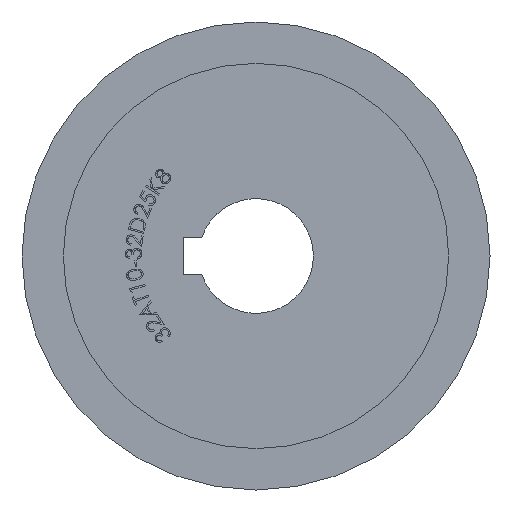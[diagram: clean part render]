
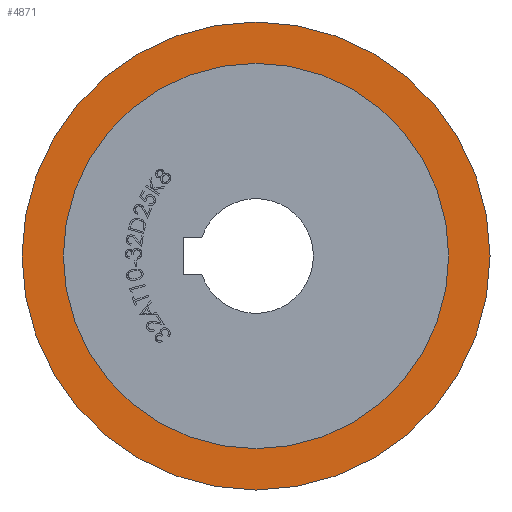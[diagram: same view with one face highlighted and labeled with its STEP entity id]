
A CAD part, left-side view. The second image highlights one B-rep face of the part: STEP entity #4871.
In plain terms, the highlighted planar face has unit normal (-1, 0, 0).
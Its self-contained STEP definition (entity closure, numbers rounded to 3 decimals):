
#50 = CARTESIAN_POINT ( 'NONE',  ( -20.2, 0., 51. ) ) ;
#310 = EDGE_LOOP ( 'NONE', ( #16038, #22500 ) ) ;
#360 = AXIS2_PLACEMENT_3D ( 'NONE', #6568, #6309, #6445 ) ;
#1471 = EDGE_CURVE ( 'NONE', #5954, #12241, #20647, .T. ) ;
#1590 = PLANE ( 'NONE',  #8426 ) ;
#2756 = CIRCLE ( 'NONE', #360, 51. ) ;
#3839 = EDGE_CURVE ( 'NONE', #8709, #14295, #2756, .T. ) ;
#3914 = DIRECTION ( 'NONE',  ( -1., 0., 0. ) ) ;
#4871 = ADVANCED_FACE ( 'NONE', ( #20275, #18423 ), #1590, .T. ) ;
#5954 = VERTEX_POINT ( 'NONE', #19003 ) ;
#6309 = DIRECTION ( 'NONE',  ( -1., 0., 0. ) ) ;
#6445 = DIRECTION ( 'NONE',  ( 0., 0., 1. ) ) ;
#6568 = CARTESIAN_POINT ( 'NONE',  ( -20.2, 0., 0. ) ) ;
#7092 = CARTESIAN_POINT ( 'NONE',  ( -20.2, 0., 0. ) ) ;
#7286 = DIRECTION ( 'NONE',  ( -1., 0., 0. ) ) ;
#8426 = AXIS2_PLACEMENT_3D ( 'NONE', #7092, #3914, #16433 ) ;
#8709 = VERTEX_POINT ( 'NONE', #50 ) ;
#8900 = CARTESIAN_POINT ( 'NONE',  ( -20.2, 0., 0. ) ) ;
#12090 = DIRECTION ( 'NONE',  ( -1., 0., 0. ) ) ;
#12241 = VERTEX_POINT ( 'NONE', #14824 ) ;
#12262 = EDGE_CURVE ( 'NONE', #14295, #8709, #22935, .T. ) ;
#13234 = CARTESIAN_POINT ( 'NONE',  ( -20.2, 0., -51. ) ) ;
#13965 = CIRCLE ( 'NONE', #17502, 42. ) ;
#14055 = EDGE_CURVE ( 'NONE', #12241, #5954, #13965, .T. ) ;
#14295 = VERTEX_POINT ( 'NONE', #13234 ) ;
#14824 = CARTESIAN_POINT ( 'NONE',  ( -20.2, 0., 42. ) ) ;
#16038 = ORIENTED_EDGE ( 'NONE', *, *, #3839, .T. ) ;
#16433 = DIRECTION ( 'NONE',  ( 0., 0., 1. ) ) ;
#16438 = CARTESIAN_POINT ( 'NONE',  ( -20.2, 0., 0. ) ) ;
#17502 = AXIS2_PLACEMENT_3D ( 'NONE', #8900, #7286, #23782 ) ;
#18423 = FACE_OUTER_BOUND ( 'NONE', #310, .T. ) ;
#19003 = CARTESIAN_POINT ( 'NONE',  ( -20.2, 0., -42. ) ) ;
#19123 = DIRECTION ( 'NONE',  ( 0., 0., 1. ) ) ;
#19499 = CARTESIAN_POINT ( 'NONE',  ( -20.2, 0., 0. ) ) ;
#19500 = AXIS2_PLACEMENT_3D ( 'NONE', #19499, #12090, #19123 ) ;
#19828 = ORIENTED_EDGE ( 'NONE', *, *, #14055, .F. ) ;
#20275 = FACE_BOUND ( 'NONE', #23870, .T. ) ;
#20390 = DIRECTION ( 'NONE',  ( -1., 0., 0. ) ) ;
#20647 = CIRCLE ( 'NONE', #19500, 42. ) ;
#22110 = ORIENTED_EDGE ( 'NONE', *, *, #1471, .F. ) ;
#22500 = ORIENTED_EDGE ( 'NONE', *, *, #12262, .T. ) ;
#22935 = CIRCLE ( 'NONE', #23337, 51. ) ;
#23337 = AXIS2_PLACEMENT_3D ( 'NONE', #16438, #20390, #24067 ) ;
#23782 = DIRECTION ( 'NONE',  ( 0., 0., 1. ) ) ;
#23870 = EDGE_LOOP ( 'NONE', ( #19828, #22110 ) ) ;
#24067 = DIRECTION ( 'NONE',  ( 0., 0., 1. ) ) ;
